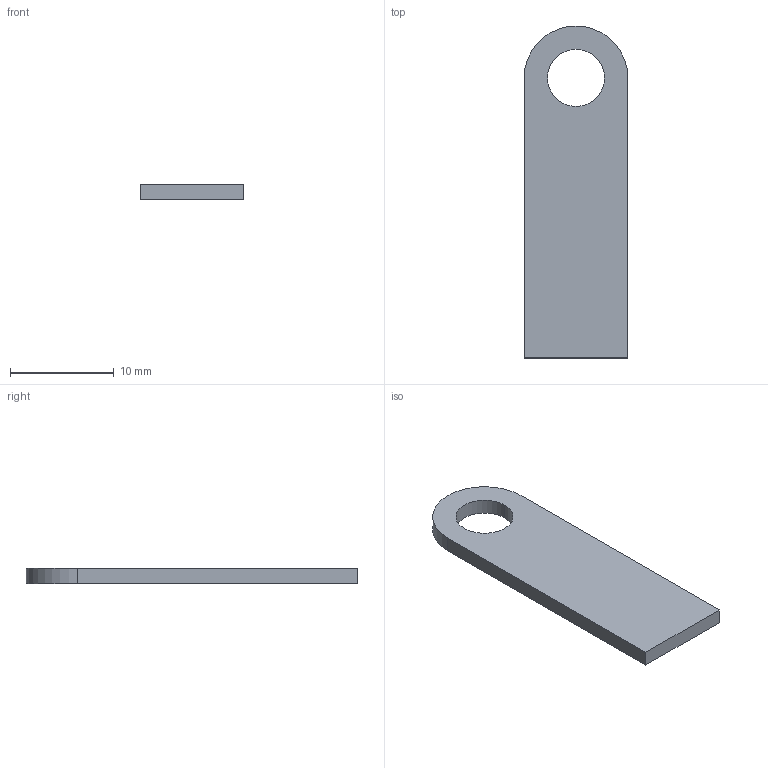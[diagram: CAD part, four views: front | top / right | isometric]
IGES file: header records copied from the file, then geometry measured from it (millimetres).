
Start section: START RECORD GO HERE.
Global section: file name: 20M_EL_09013_1  (bracket Fusebox-longue).igs; native system: IBM CATIA IGES - CATIA Version 5 Release 19 ; preprocessor: CATIA Version 5 Release 19 ; author: Mathieu Jacquet; organization: MBPRO; date: 20200123.202548; units: millimetre
Bounding box: 10 x 32 x 1.5 mm (x, y, z)
Surface area: 716.5 mm2 (no closed solid volume)
Topology: 0 solids, 0 shells, 8 faces, 36 edges, 36 vertices
Faces by surface type: plane 5, revolution 3
